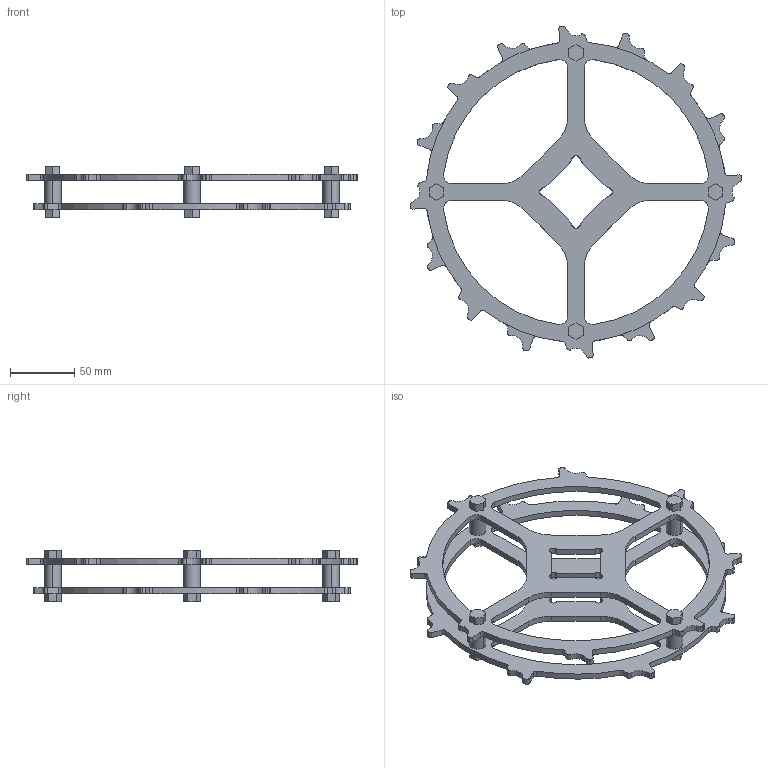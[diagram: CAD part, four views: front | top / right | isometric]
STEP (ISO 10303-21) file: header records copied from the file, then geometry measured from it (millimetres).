
FILE_DESCRIPTION((''),'2;1');
FILE_NAME('S200_AR_METAL_101X15_SQ_ASM','2008-12-12T',('jmumphre'),(''),'PRO/ENGINEER BY PARAMETRIC TECHNOLOGY CORPORATION, 2008150','PRO/ENGINEER BY PARAMETRIC TECHNOLOGY CORPORATION, 2008150','');
FILE_SCHEMA(('CONFIG_CONTROL_DESIGN'));
Length unit declared in the file: inch
Products named in the file (5): S200_TP_AR_101X15-A_SQ; S200_TP_AR_101X15-B_SQ; S200_SPACER_BUSHING; BOLTS_N_NUTS_8-500X1-084; S200_AR_METAL_101X15_SQ_ASM
Assembly tree (7 placements, depth 2):
  S200_AR_METAL_101X15_SQ_ASM
    S200_TP_AR_101X15-A_SQ
    S200_TP_AR_101X15-B_SQ
    S200_SPACER_BUSHING  x4
    BOLTS_N_NUTS_8-500X1-084
Bounding box: 257.52 x 257.52 x 40.23 mm (x, y, z)
Volume: 177581.2 mm3; surface area: 102114.3 mm2
Topology: 10 solids, 10 shells, 372 faces, 1032 edges, 688 vertices
Faces by surface type: cylinder 216, plane 156
Entity records: 11821 total; most frequent: DIRECTION 2136, CARTESIAN_POINT 2026, ORIENTED_EDGE 1992, EDGE_CURVE 996, AXIS2_PLACEMENT_3D 774, VERTEX_POINT 664, VECTOR 588, LINE 588
